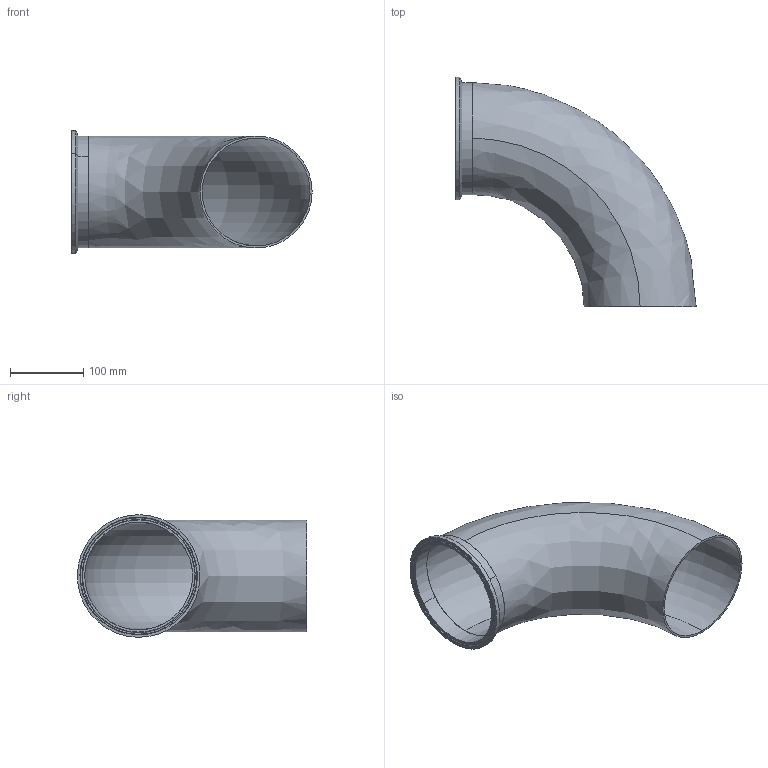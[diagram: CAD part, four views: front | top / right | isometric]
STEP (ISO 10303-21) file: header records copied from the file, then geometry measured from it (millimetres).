
FILE_DESCRIPTION (( 'STEP AP203' ), '1' );
FILE_NAME ('E2C6.0.STEP', '2018-04-30T15:34:38', ( 'vneprd' ), ( 'Microsoft' ), 'SwSTEP 2.0', 'SolidWorks 2014', '' );
FILE_SCHEMA (( 'CONFIG_CONTROL_DESIGN' ));
Length unit declared in the file: inch
Products named in the file (1): E2C6.0
Bounding box: 327.02 x 312.02 x 166.84 mm (x, y, z)
Volume: 520113.6 mm3; surface area: 370637.9 mm2
Topology: 2 solids, 2 shells, 23 faces, 46 edges, 28 vertices
Faces by surface type: cylinder 6, torus 6, plane 5, bspline 4, cone 2
Entity records: 13656 total; most frequent: CARTESIAN_POINT 13093, DIRECTION 108, ORIENTED_EDGE 92, AXIS2_PLACEMENT_3D 50, EDGE_CURVE 46, CIRCLE 30, EDGE_LOOP 28, VERTEX_POINT 28
